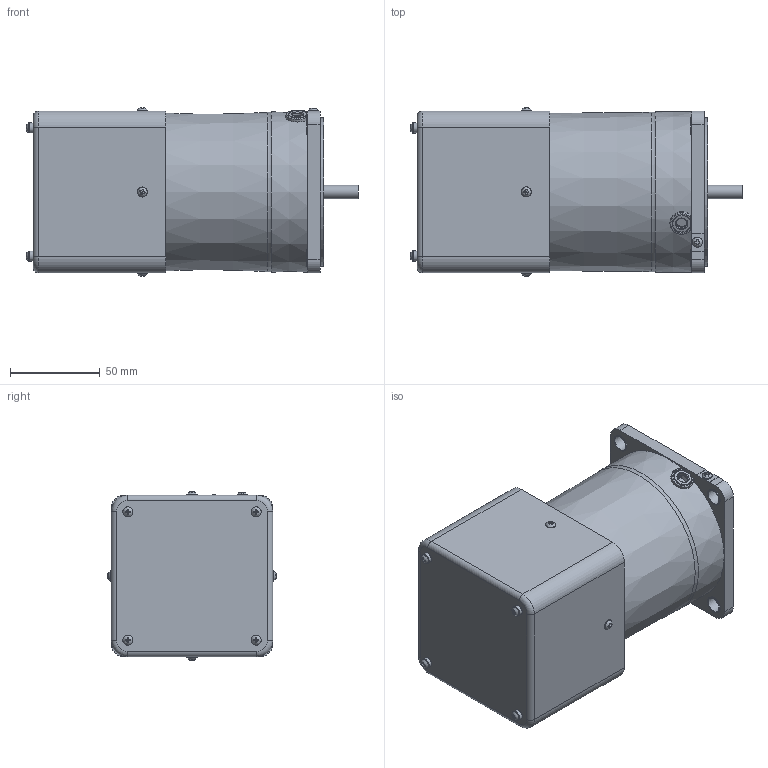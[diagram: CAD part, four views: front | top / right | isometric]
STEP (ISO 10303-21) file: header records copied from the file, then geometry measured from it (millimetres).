
FILE_DESCRIPTION(/* description */ (''),/* implementation_level */ '2;1');
FILE_NAME(/* name */ 'E:\도면작업\2016\0704) 미주향 SG 도면\3D MOTOR\SPEED CONTROL TYPE\SG9I60G_-S12(24).stp',/* time_stamp */ '2017-08-21T11:12:38+09:00',/* author */ ('jy-jung'),/* organization */ (''),/* preprocessor_version */ 'ST-DEVELOPER v15.6',/* originating_system */ 'Autodesk Inventor 2015',/* authorisation */ '');
FILE_SCHEMA (('AUTOMOTIVE_DESIGN { 1 0 10303 214 3 1 1 }'));
Length unit declared in the file: millimetre
Products named in the file (1): 부품27
Bounding box: 184.85 x 93.89 x 93.89 mm (x, y, z)
Volume: 871546 mm3; surface area: 100353.6 mm2
Topology: 1 solids, 7 shells, 307 faces, 751 edges, 487 vertices
Faces by surface type: plane 192, cylinder 72, torus 27, bspline 9, cone 7
Full cylindrical faces by diameter (mm): 3 x8, 4.5 x4, 5.6 x13, 6 x1, 7.62 x1, 8.5 x4, 9.5 x4, 10 x1, 40 x1, 83 x1
Entity records: 9624 total; most frequent: CARTESIAN_POINT 2441, ORIENTED_EDGE 1366, DIRECTION 1338, EDGE_CURVE 683, AXIS2_PLACEMENT_3D 490, VERTEX_POINT 483, EDGE_LOOP 418, LINE 358
